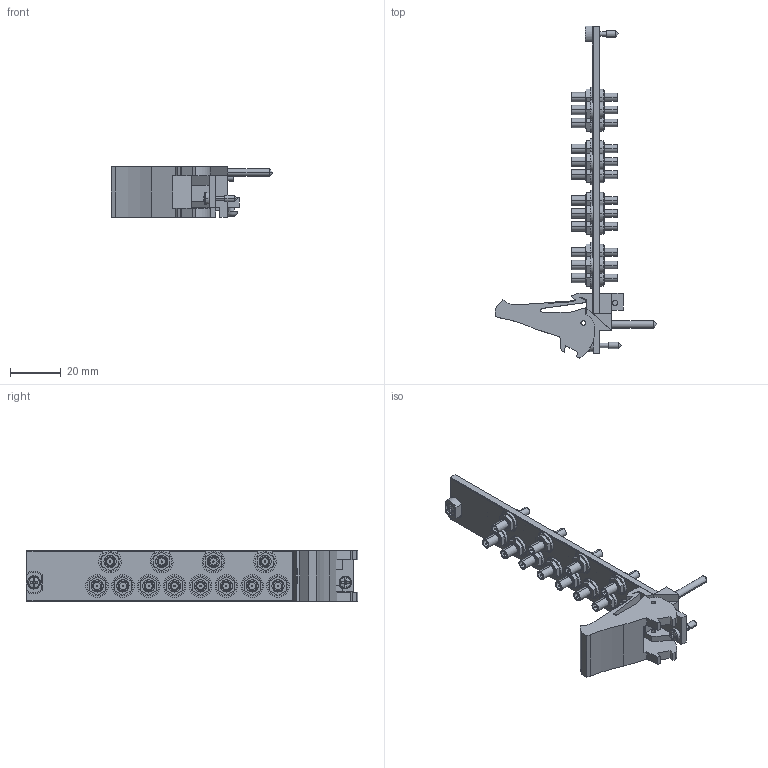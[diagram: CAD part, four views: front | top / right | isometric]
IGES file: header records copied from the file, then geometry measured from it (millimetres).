
Start section:  PTC IGES file: cu_pxi-2558.igs
Global section: file name: cu_pxi-2558.igs; native system: Pro/ENGINEER by Parametric Technology Corporation; preprocessor: 2006080; author: jjorden; organization: Unknown; date: 091005.154732; units: inch
Bounding box: 63.53 x 130.5 x 20.02 mm (x, y, z)
Surface area: 17681.7 mm2 (no closed solid volume)
Topology: 0 solids, 0 shells, 814 faces, 3724 edges, 3716 vertices
Faces by surface type: bspline 458, revolution 356
